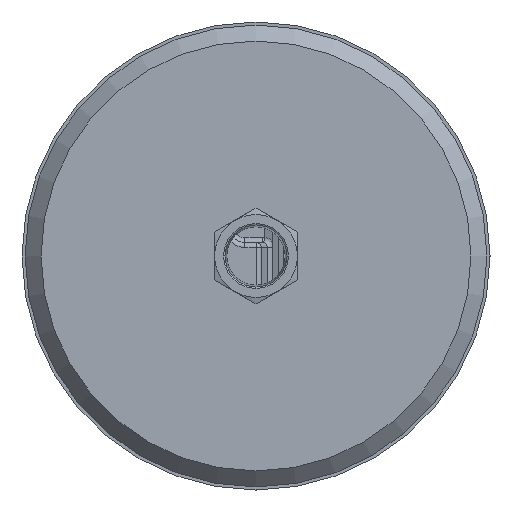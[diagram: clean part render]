
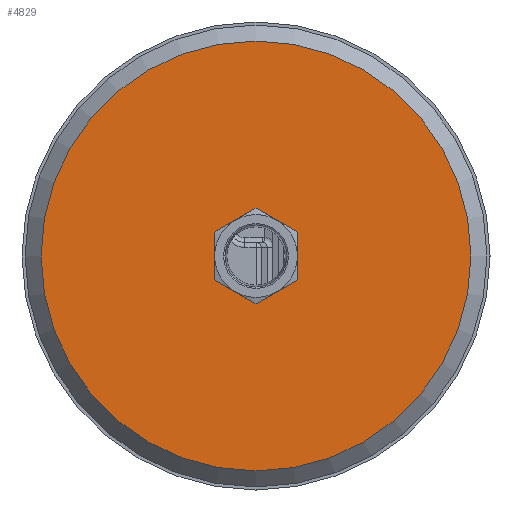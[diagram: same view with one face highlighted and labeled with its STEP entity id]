
A CAD part, front view. The second image highlights one B-rep face of the part: STEP entity #4829.
In plain terms, the highlighted planar face has unit normal (0, -1, 0).
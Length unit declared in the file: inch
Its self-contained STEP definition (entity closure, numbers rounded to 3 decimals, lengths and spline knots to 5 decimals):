
#521 = FACE_OUTER_BOUND ( 'NONE', #5189, .T. ) ;
#601 = EDGE_CURVE ( 'NONE', #4528, #4528, #7150, .T. ) ;
#1168 = EDGE_LOOP ( 'NONE', ( #6040 ) ) ;
#1670 = DIRECTION ( 'NONE',  ( 0., 0., -1. ) ) ;
#2365 = CARTESIAN_POINT ( 'NONE',  ( -1.4015, -3.22375, 0. ) ) ;
#2368 = VERTEX_POINT ( 'NONE', #4853 ) ;
#3023 = CIRCLE ( 'NONE', #4325, 2.755 ) ;
#3046 = ORIENTED_EDGE ( 'NONE', *, *, #6375, .T. ) ;
#3598 = CARTESIAN_POINT ( 'NONE',  ( -0.94, -3.22375, 0. ) ) ;
#4159 = PLANE ( 'NONE',  #6820 ) ;
#4242 = DIRECTION ( 'NONE',  ( 0., 1., 0. ) ) ;
#4325 = AXIS2_PLACEMENT_3D ( 'NONE', #6887, #4921, #6218 ) ;
#4528 = VERTEX_POINT ( 'NONE', #7678 ) ;
#4695 = DIRECTION ( 'NONE',  ( 0., -1., 0. ) ) ;
#4829 = ADVANCED_FACE ( 'NONE', ( #6039, #521 ), #4159, .F. ) ;
#4853 = CARTESIAN_POINT ( 'NONE',  ( -0.94, -3.22375, -2.755 ) ) ;
#4893 = DIRECTION ( 'NONE',  ( 0., 0., 1. ) ) ;
#4921 = DIRECTION ( 'NONE',  ( 0., -1., 0. ) ) ;
#5189 = EDGE_LOOP ( 'NONE', ( #3046 ) ) ;
#6039 = FACE_BOUND ( 'NONE', #1168, .T. ) ;
#6040 = ORIENTED_EDGE ( 'NONE', *, *, #601, .F. ) ;
#6218 = DIRECTION ( 'NONE',  ( 0., 0., -1. ) ) ;
#6375 = EDGE_CURVE ( 'NONE', #2368, #2368, #3023, .T. ) ;
#6820 = AXIS2_PLACEMENT_3D ( 'NONE', #2365, #4242, #4893 ) ;
#6887 = CARTESIAN_POINT ( 'NONE',  ( -0.94, -3.22375, 0. ) ) ;
#7008 = AXIS2_PLACEMENT_3D ( 'NONE', #3598, #4695, #1670 ) ;
#7150 = CIRCLE ( 'NONE', #7008, 0.4615 ) ;
#7678 = CARTESIAN_POINT ( 'NONE',  ( -0.94, -3.22375, -0.4615 ) ) ;
